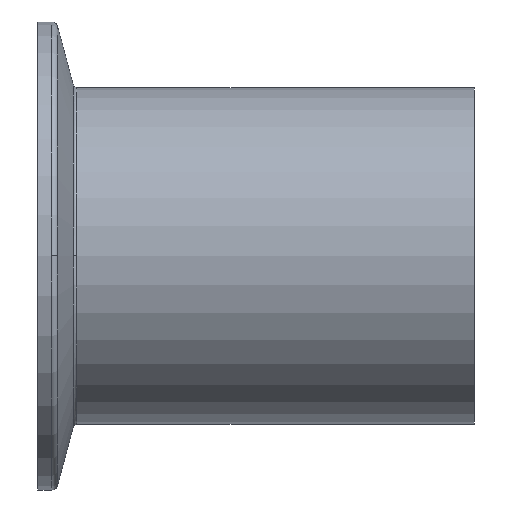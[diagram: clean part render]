
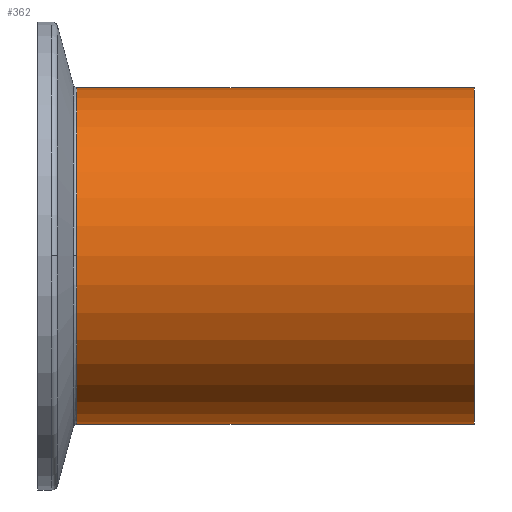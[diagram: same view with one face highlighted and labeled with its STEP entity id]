
A CAD part, top view. The second image highlights one B-rep face of the part: STEP entity #362.
In plain terms, the highlighted cylindrical face has radius 27 mm (diameter 54 mm), a partial arc.
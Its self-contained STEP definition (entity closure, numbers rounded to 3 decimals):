
#312=CARTESIAN_POINT('',(37.907,0.0,0.0));
#313=DIRECTION('',(1.0,0.0,0.0));
#314=DIRECTION('',(0.0,1.0,0.0));
#315=AXIS2_PLACEMENT_3D('',#312,#313,#314);
#316=CYLINDRICAL_SURFACE('',#315,27.);
#317=CARTESIAN_POINT('',(6.274,27.,0.0));
#318=VERTEX_POINT('',#317);
#319=CARTESIAN_POINT('',(70.0,27.,0.0));
#320=VERTEX_POINT('',#319);
#321=CARTESIAN_POINT('',(6.274,27.,0.0));
#322=DIRECTION('',(1.0,0.0,0.0));
#323=VECTOR('',#322,63.726);
#324=LINE('',#321,#323);
#325=EDGE_CURVE('',#318,#320,#324,.T.);
#326=ORIENTED_EDGE('',*,*,#325,.F.);
#327=CARTESIAN_POINT('',(6.274,0.,27.));
#328=VERTEX_POINT('',#327);
#329=CARTESIAN_POINT('',(6.274,0.0,0.0));
#330=DIRECTION('',(-1.0,0.0,0.0));
#331=DIRECTION('',(0.0,-1.0,0.0));
#332=AXIS2_PLACEMENT_3D('',#329,#330,#331);
#333=CIRCLE('',#332,27.);
#334=EDGE_CURVE('',#328,#318,#333,.T.);
#335=ORIENTED_EDGE('',*,*,#334,.F.);
#336=CARTESIAN_POINT('',(6.274,-27.,0.));
#337=VERTEX_POINT('',#336);
#338=CARTESIAN_POINT('',(6.274,0.0,0.0));
#339=DIRECTION('',(-1.0,0.0,0.0));
#340=DIRECTION('',(0.0,-1.0,0.0));
#341=AXIS2_PLACEMENT_3D('',#338,#339,#340);
#342=CIRCLE('',#341,27.);
#343=EDGE_CURVE('',#337,#328,#342,.T.);
#344=ORIENTED_EDGE('',*,*,#343,.F.);
#345=CARTESIAN_POINT('',(70.0,-27.,0.));
#346=VERTEX_POINT('',#345);
#347=CARTESIAN_POINT('',(70.0,-27.,0.));
#348=DIRECTION('',(-1.0,0.0,0.0));
#349=VECTOR('',#348,63.726);
#350=LINE('',#347,#349);
#351=EDGE_CURVE('',#346,#337,#350,.T.);
#352=ORIENTED_EDGE('',*,*,#351,.F.);
#353=CARTESIAN_POINT('',(70.0,0.0,0.0));
#354=DIRECTION('',(1.0,0.0,0.0));
#355=DIRECTION('',(0.0,1.0,0.0));
#356=AXIS2_PLACEMENT_3D('',#353,#354,#355);
#357=CIRCLE('',#356,27.);
#358=EDGE_CURVE('',#320,#346,#357,.T.);
#359=ORIENTED_EDGE('',*,*,#358,.F.);
#360=EDGE_LOOP('',(#326,#335,#344,#352,#359));
#361=FACE_OUTER_BOUND('',#360,.T.);
#362=ADVANCED_FACE('',(#361),#316,.T.);
